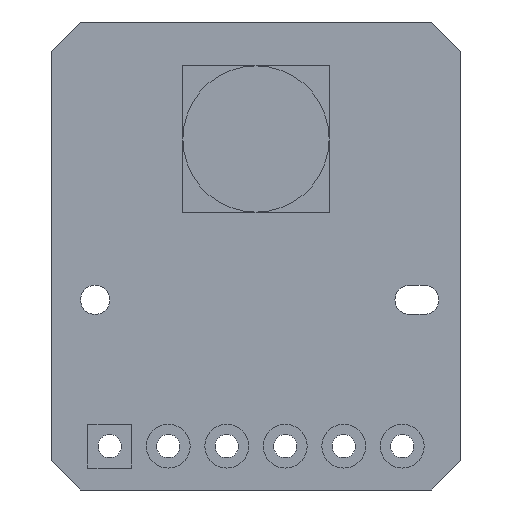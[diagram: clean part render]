
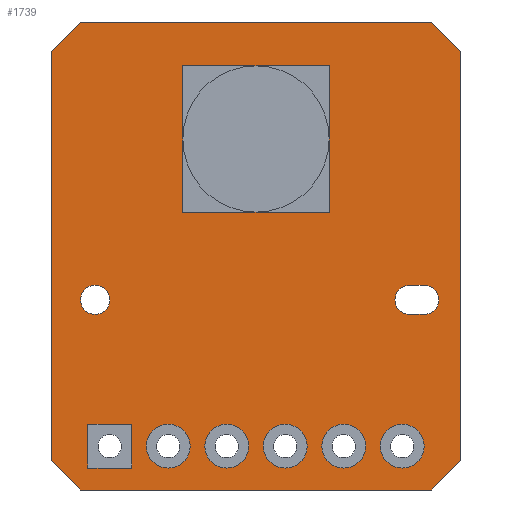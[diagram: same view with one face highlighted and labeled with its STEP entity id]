
A CAD part, front view. The second image highlights one B-rep face of the part: STEP entity #1739.
In plain terms, the highlighted planar face has unit normal (0, -1, 0).
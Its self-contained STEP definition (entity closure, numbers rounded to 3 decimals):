
#42=CIRCLE('',#1824,0.5);
#43=CIRCLE('',#1825,0.5);
#44=CIRCLE('',#1826,0.5);
#45=CIRCLE('',#1827,0.75);
#46=CIRCLE('',#1828,0.75);
#47=CIRCLE('',#1829,0.75);
#48=CIRCLE('',#1830,0.75);
#49=CIRCLE('',#1831,0.75);
#86=ORIENTED_EDGE('',*,*,#402,.T.);
#87=ORIENTED_EDGE('',*,*,#403,.T.);
#88=ORIENTED_EDGE('',*,*,#404,.T.);
#89=ORIENTED_EDGE('',*,*,#405,.T.);
#90=ORIENTED_EDGE('',*,*,#406,.T.);
#91=ORIENTED_EDGE('',*,*,#407,.T.);
#92=ORIENTED_EDGE('',*,*,#408,.T.);
#93=ORIENTED_EDGE('',*,*,#409,.T.);
#94=ORIENTED_EDGE('',*,*,#410,.T.);
#95=ORIENTED_EDGE('',*,*,#411,.T.);
#96=ORIENTED_EDGE('',*,*,#412,.T.);
#97=ORIENTED_EDGE('',*,*,#413,.T.);
#98=ORIENTED_EDGE('',*,*,#414,.T.);
#99=ORIENTED_EDGE('',*,*,#415,.F.);
#100=ORIENTED_EDGE('',*,*,#416,.F.);
#101=ORIENTED_EDGE('',*,*,#417,.F.);
#102=ORIENTED_EDGE('',*,*,#418,.F.);
#103=ORIENTED_EDGE('',*,*,#419,.F.);
#104=ORIENTED_EDGE('',*,*,#420,.T.);
#105=ORIENTED_EDGE('',*,*,#421,.T.);
#106=ORIENTED_EDGE('',*,*,#422,.T.);
#107=ORIENTED_EDGE('',*,*,#423,.T.);
#108=ORIENTED_EDGE('',*,*,#424,.F.);
#109=ORIENTED_EDGE('',*,*,#425,.F.);
#110=ORIENTED_EDGE('',*,*,#426,.F.);
#111=ORIENTED_EDGE('',*,*,#427,.F.);
#402=EDGE_CURVE('',#560,#561,#677,.T.);
#403=EDGE_CURVE('',#561,#562,#42,.F.);
#404=EDGE_CURVE('',#562,#563,#678,.T.);
#405=EDGE_CURVE('',#563,#560,#43,.F.);
#406=EDGE_CURVE('',#564,#565,#679,.T.);
#407=EDGE_CURVE('',#565,#566,#680,.F.);
#408=EDGE_CURVE('',#566,#567,#681,.T.);
#409=EDGE_CURVE('',#567,#568,#682,.F.);
#410=EDGE_CURVE('',#568,#569,#683,.T.);
#411=EDGE_CURVE('',#569,#570,#684,.F.);
#412=EDGE_CURVE('',#570,#571,#685,.T.);
#413=EDGE_CURVE('',#571,#564,#686,.F.);
#414=EDGE_CURVE('',#572,#572,#44,.F.);
#415=EDGE_CURVE('',#573,#573,#45,.T.);
#416=EDGE_CURVE('',#574,#574,#46,.T.);
#417=EDGE_CURVE('',#575,#575,#47,.T.);
#418=EDGE_CURVE('',#576,#576,#48,.T.);
#419=EDGE_CURVE('',#577,#577,#49,.T.);
#420=EDGE_CURVE('',#578,#579,#687,.T.);
#421=EDGE_CURVE('',#579,#580,#688,.T.);
#422=EDGE_CURVE('',#580,#581,#689,.T.);
#423=EDGE_CURVE('',#581,#578,#690,.T.);
#424=EDGE_CURVE('',#582,#583,#691,.T.);
#425=EDGE_CURVE('',#584,#582,#692,.T.);
#426=EDGE_CURVE('',#585,#584,#693,.T.);
#427=EDGE_CURVE('',#583,#585,#694,.T.);
#560=VERTEX_POINT('',#2305);
#561=VERTEX_POINT('',#2306);
#562=VERTEX_POINT('',#2308);
#563=VERTEX_POINT('',#2310);
#564=VERTEX_POINT('',#2313);
#565=VERTEX_POINT('',#2314);
#566=VERTEX_POINT('',#2316);
#567=VERTEX_POINT('',#2318);
#568=VERTEX_POINT('',#2320);
#569=VERTEX_POINT('',#2322);
#570=VERTEX_POINT('',#2324);
#571=VERTEX_POINT('',#2326);
#572=VERTEX_POINT('',#2329);
#573=VERTEX_POINT('',#2331);
#574=VERTEX_POINT('',#2333);
#575=VERTEX_POINT('',#2335);
#576=VERTEX_POINT('',#2337);
#577=VERTEX_POINT('',#2339);
#578=VERTEX_POINT('',#2341);
#579=VERTEX_POINT('',#2342);
#580=VERTEX_POINT('',#2344);
#581=VERTEX_POINT('',#2346);
#582=VERTEX_POINT('',#2349);
#583=VERTEX_POINT('',#2350);
#584=VERTEX_POINT('',#2352);
#585=VERTEX_POINT('',#2354);
#677=LINE('',#2304,#791);
#678=LINE('',#2309,#792);
#679=LINE('',#2312,#793);
#680=LINE('',#2315,#794);
#681=LINE('',#2317,#795);
#682=LINE('',#2319,#796);
#683=LINE('',#2321,#797);
#684=LINE('',#2323,#798);
#685=LINE('',#2325,#799);
#686=LINE('',#2327,#800);
#687=LINE('',#2340,#801);
#688=LINE('',#2343,#802);
#689=LINE('',#2345,#803);
#690=LINE('',#2347,#804);
#691=LINE('',#2348,#805);
#692=LINE('',#2351,#806);
#693=LINE('',#2353,#807);
#694=LINE('',#2355,#808);
#791=VECTOR('',#1948,1000.);
#792=VECTOR('',#1951,1000.);
#793=VECTOR('',#1954,1000.);
#794=VECTOR('',#1955,1000.);
#795=VECTOR('',#1956,1000.);
#796=VECTOR('',#1957,1000.);
#797=VECTOR('',#1958,1000.);
#798=VECTOR('',#1959,1000.);
#799=VECTOR('',#1960,1000.);
#800=VECTOR('',#1961,1000.);
#801=VECTOR('',#1974,1000.);
#802=VECTOR('',#1975,1000.);
#803=VECTOR('',#1976,1000.);
#804=VECTOR('',#1977,1000.);
#805=VECTOR('',#1978,1000.);
#806=VECTOR('',#1979,1000.);
#807=VECTOR('',#1980,1000.);
#808=VECTOR('',#1981,1000.);
#905=EDGE_LOOP('',(#86,#87,#88,#89));
#906=EDGE_LOOP('',(#90,#91,#92,#93,#94,#95,#96,#97));
#907=EDGE_LOOP('',(#98));
#908=EDGE_LOOP('',(#99));
#909=EDGE_LOOP('',(#100));
#910=EDGE_LOOP('',(#101));
#911=EDGE_LOOP('',(#102));
#912=EDGE_LOOP('',(#103));
#913=EDGE_LOOP('',(#104,#105,#106,#107));
#914=EDGE_LOOP('',(#108,#109,#110,#111));
#1030=FACE_BOUND('',#905,.T.);
#1031=FACE_BOUND('',#906,.T.);
#1032=FACE_BOUND('',#907,.T.);
#1033=FACE_BOUND('',#908,.T.);
#1034=FACE_BOUND('',#909,.T.);
#1035=FACE_BOUND('',#910,.T.);
#1036=FACE_BOUND('',#911,.T.);
#1037=FACE_BOUND('',#912,.T.);
#1038=FACE_BOUND('',#913,.T.);
#1039=FACE_BOUND('',#914,.T.);
#1155=PLANE('',#1823);
#1739=ADVANCED_FACE('',(#1030,#1031,#1032,#1033,#1034,#1035,#1036,#1037,
#1038,#1039),#1155,.T.);
#1823=AXIS2_PLACEMENT_3D('',#2303,#1946,#1947);
#1824=AXIS2_PLACEMENT_3D('',#2307,#1949,#1950);
#1825=AXIS2_PLACEMENT_3D('',#2311,#1952,#1953);
#1826=AXIS2_PLACEMENT_3D('',#2328,#1962,#1963);
#1827=AXIS2_PLACEMENT_3D('',#2330,#1964,#1965);
#1828=AXIS2_PLACEMENT_3D('',#2332,#1966,#1967);
#1829=AXIS2_PLACEMENT_3D('',#2334,#1968,#1969);
#1830=AXIS2_PLACEMENT_3D('',#2336,#1970,#1971);
#1831=AXIS2_PLACEMENT_3D('',#2338,#1972,#1973);
#1946=DIRECTION('',(0.,-1.,0.));
#1947=DIRECTION('',(0.,0.,-1.));
#1948=DIRECTION('',(-1.,0.,0.));
#1949=DIRECTION('',(0.,-1.,0.));
#1950=DIRECTION('',(0.,0.,-1.));
#1951=DIRECTION('',(1.,0.,0.));
#1952=DIRECTION('',(0.,-1.,0.));
#1953=DIRECTION('',(0.,0.,-1.));
#1954=DIRECTION('',(0.,0.,-1.));
#1955=DIRECTION('',(-0.707,0.,0.707));
#1956=DIRECTION('',(1.,0.,0.));
#1957=DIRECTION('',(-0.707,0.,-0.707));
#1958=DIRECTION('',(0.,0.,1.));
#1959=DIRECTION('',(0.707,0.,-0.707));
#1960=DIRECTION('',(-1.,0.,0.));
#1961=DIRECTION('',(0.707,0.,0.707));
#1962=DIRECTION('',(0.,-1.,0.));
#1963=DIRECTION('',(0.,0.,-1.));
#1964=DIRECTION('',(0.,-1.,0.));
#1965=DIRECTION('',(-1.,0.,0.));
#1966=DIRECTION('',(0.,-1.,0.));
#1967=DIRECTION('',(-1.,0.,0.));
#1968=DIRECTION('',(0.,-1.,0.));
#1969=DIRECTION('',(-1.,0.,0.));
#1970=DIRECTION('',(0.,-1.,0.));
#1971=DIRECTION('',(-1.,0.,0.));
#1972=DIRECTION('',(0.,-1.,0.));
#1973=DIRECTION('',(-1.,0.,0.));
#1974=DIRECTION('',(0.,0.,1.));
#1975=DIRECTION('',(1.,0.,0.));
#1976=DIRECTION('',(0.,0.,-1.));
#1977=DIRECTION('',(-1.,0.,0.));
#1978=DIRECTION('',(-1.,0.,0.));
#1979=DIRECTION('',(0.,0.,1.));
#1980=DIRECTION('',(1.,0.,0.));
#1981=DIRECTION('',(0.,0.,-1.));
#2303=CARTESIAN_POINT('',(0.,0.,0.));
#2304=CARTESIAN_POINT('',(0.,0.,-2.));
#2305=CARTESIAN_POINT('',(5.75,0.,-2.));
#2306=CARTESIAN_POINT('',(5.25,0.,-2.));
#2307=CARTESIAN_POINT('',(5.25,0.,-1.5));
#2308=CARTESIAN_POINT('',(5.25,0.,-1.));
#2309=CARTESIAN_POINT('',(0.,0.,-1.));
#2310=CARTESIAN_POINT('',(5.75,0.,-1.));
#2311=CARTESIAN_POINT('',(5.75,0.,-1.5));
#2312=CARTESIAN_POINT('',(-7.,0.,8.));
#2313=CARTESIAN_POINT('',(-7.,0.,7.));
#2314=CARTESIAN_POINT('',(-7.,0.,-7.));
#2315=CARTESIAN_POINT('',(-7.,0.,-7.));
#2316=CARTESIAN_POINT('',(-6.,0.,-8.));
#2317=CARTESIAN_POINT('',(-7.,0.,-8.));
#2318=CARTESIAN_POINT('',(6.,0.,-8.));
#2319=CARTESIAN_POINT('',(7.,0.,-7.));
#2320=CARTESIAN_POINT('',(7.,0.,-7.));
#2321=CARTESIAN_POINT('',(7.,0.,-8.));
#2322=CARTESIAN_POINT('',(7.,0.,7.));
#2323=CARTESIAN_POINT('',(7.,0.,7.));
#2324=CARTESIAN_POINT('',(6.,0.,8.));
#2325=CARTESIAN_POINT('',(7.,0.,8.));
#2326=CARTESIAN_POINT('',(-6.,0.,8.));
#2327=CARTESIAN_POINT('',(-7.,0.,7.));
#2328=CARTESIAN_POINT('',(-5.5,0.,-1.5));
#2329=CARTESIAN_POINT('',(-5.5,0.,-2.));
#2330=CARTESIAN_POINT('',(-3.,0.,-6.5));
#2331=CARTESIAN_POINT('',(-3.75,0.,-6.5));
#2332=CARTESIAN_POINT('',(-1.,0.,-6.5));
#2333=CARTESIAN_POINT('',(-1.75,0.,-6.5));
#2334=CARTESIAN_POINT('',(1.,0.,-6.5));
#2335=CARTESIAN_POINT('',(0.25,0.,-6.5));
#2336=CARTESIAN_POINT('',(3.,0.,-6.5));
#2337=CARTESIAN_POINT('',(2.25,0.,-6.5));
#2338=CARTESIAN_POINT('',(5.,0.,-6.5));
#2339=CARTESIAN_POINT('',(4.25,0.,-6.5));
#2340=CARTESIAN_POINT('',(-5.75,0.,-7.25));
#2341=CARTESIAN_POINT('',(-5.75,0.,-7.25));
#2342=CARTESIAN_POINT('',(-5.75,0.,-5.75));
#2343=CARTESIAN_POINT('',(-5.75,0.,-5.75));
#2344=CARTESIAN_POINT('',(-4.25,0.,-5.75));
#2345=CARTESIAN_POINT('',(-4.25,0.,-5.75));
#2346=CARTESIAN_POINT('',(-4.25,0.,-7.25));
#2347=CARTESIAN_POINT('',(-4.25,0.,-7.25));
#2348=CARTESIAN_POINT('',(2.5,0.,6.5));
#2349=CARTESIAN_POINT('',(2.5,0.,6.5));
#2350=CARTESIAN_POINT('',(-2.5,0.,6.5));
#2351=CARTESIAN_POINT('',(2.5,0.,1.5));
#2352=CARTESIAN_POINT('',(2.5,0.,1.5));
#2353=CARTESIAN_POINT('',(-2.5,0.,1.5));
#2354=CARTESIAN_POINT('',(-2.5,0.,1.5));
#2355=CARTESIAN_POINT('',(-2.5,0.,6.5));
